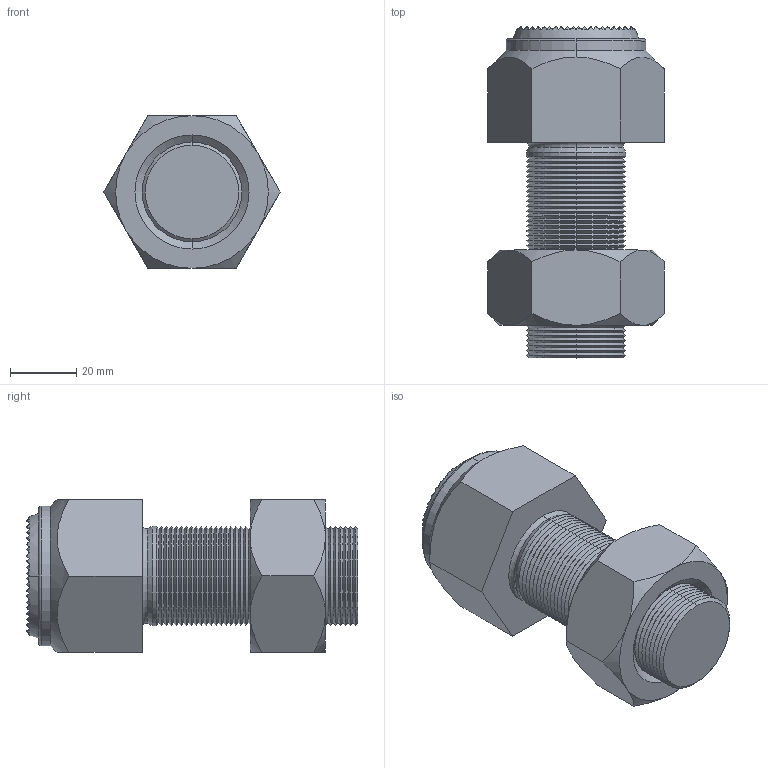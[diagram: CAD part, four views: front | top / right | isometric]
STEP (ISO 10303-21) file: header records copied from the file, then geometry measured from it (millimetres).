
FILE_DESCRIPTION (( 'STEP AP203' ), '1' );
FILE_NAME ('34120.W0346.step', '2017-03-27T09:24:08', ( 'User' ), ( '' ), 'SwSTEP 2.0', 'SolidWorks 2009', '' );
FILE_SCHEMA (( 'CONFIG_CONTROL_DESIGN' ));
Length unit declared in the file: millimetre
Products named in the file (4): 34120.W0346; Part1_34120.W0346; Part2_34120.W0346; Part3_34120.W0346
Assembly tree (3 placements, depth 2):
  34120.W0346
    Part2_34120.W0346
    Part3_34120.W0346
    Part1_34120.W0346
Bounding box: 53.12 x 100 x 46 mm (x, y, z)
Volume: 123006.5 mm3; surface area: 31916.2 mm2
Topology: 3 solids, 3 shells, 1637 faces, 2734 edges, 1101 vertices
Faces by surface type: plane 1435, cone 182, cylinder 8, torus 8, sphere 4
Entity records: 35468 total; most frequent: DIRECTION 6418, CARTESIAN_POINT 5762, ORIENTED_EDGE 5448, EDGE_CURVE 2724, VECTOR 2252, LINE 2252, AXIS2_PLACEMENT_3D 2083, EDGE_LOOP 1641
